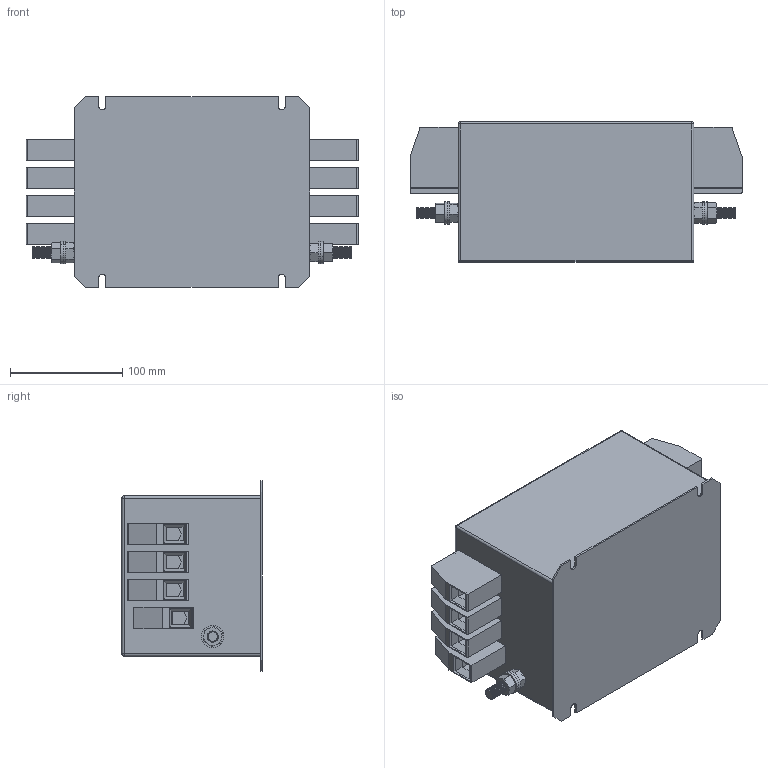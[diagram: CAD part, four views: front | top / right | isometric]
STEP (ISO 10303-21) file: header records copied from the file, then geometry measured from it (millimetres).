
FILE_DESCRIPTION (( 'STEP AP203' ), '1' );
FILE_NAME ('NF-4-120-FTN.STEP', '2018-02-14T10:36:06', ( '' ), ( '' ), 'SwSTEP 2.0', 'SolidWorks 2017', '' );
FILE_SCHEMA (( 'CONFIG_CONTROL_DESIGN' ));
Length unit declared in the file: millimetre
Products named in the file (7): M10x30 Earth post; flat washer narrow_am_B18.22M - Plain washer, 10 mm, narrow; HDFK-50; hex screw_am_B18.6.7M - M10 x 1.5 x 30 Indented HHMS --30S; NF-4-120-FTN; hex nut style 1_am_B18.2.4.1M - Hex nut, Style 1,  M10 x 1.5, with 16mm WAF --D-N; FTN-120
Assembly tree (15 placements, depth 3):
  NF-4-120-FTN
    FTN-120
    M10x30 Earth post  x2
      flat washer narrow_am_B18.22M - Plain washer, 10 mm, narrow
      hex nut style 1_am_B18.2.4.1M - Hex nut, Style 1,  M10 x 1.5, with 16mm WAF --D-N
      hex screw_am_B18.6.7M - M10 x 1.5 x 30 Indented HHMS --30S
    HDFK-50  x8
Bounding box: 296.01 x 125 x 170 mm (x, y, z)
Volume: 3870551.9 mm3; surface area: 376619.3 mm2
Topology: 18 solids, 18 shells, 896 faces, 2180 edges, 1384 vertices
Faces by surface type: plane 480, cylinder 212, cone 200, sphere 4
Entity records: 9949 total; most frequent: CARTESIAN_POINT 1713, DIRECTION 1616, ORIENTED_EDGE 1468, EDGE_CURVE 734, AXIS2_PLACEMENT_3D 605, VERTEX_POINT 462, LINE 406, VECTOR 406
